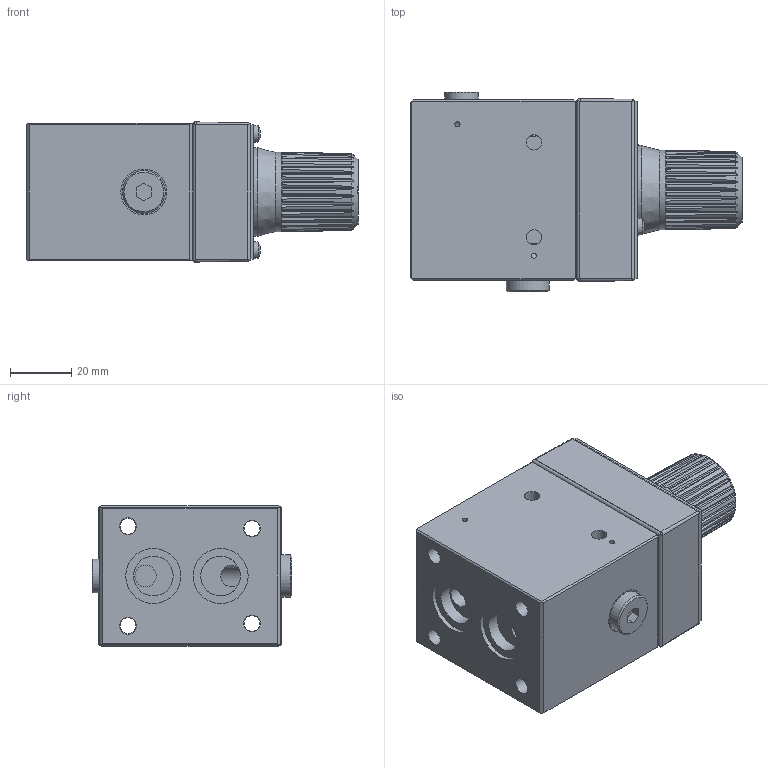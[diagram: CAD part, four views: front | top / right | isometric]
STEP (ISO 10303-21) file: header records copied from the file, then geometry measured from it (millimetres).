
FILE_DESCRIPTION(/* description */ ('STEP AP214'),/* implementation_level */ '2;1');
FILE_NAME(/* name */ 'RPC1-0_5_T_43',/* time_stamp */ '2024-12-22T08:22:13+01:00',/* author */ ('License CC BY-ND 4.0'),/* organization */ ('CADENAS'),/* preprocessor_version */ 'ST-DEVELOPER v19.3',/* originating_system */ 'PARTsolutions',/* authorisation */ ' ');
FILE_SCHEMA (('AUTOMOTIVE_DESIGN {1 0 10303 214 3 1 1}'));
Length unit declared in the file: millimetre
Products named in the file (11): RPC1-0,5/T/43; 0128619-00; 0113360-03; 3001210100-04; 0530779; 0210401-02; 0530160; 0551628; 0532227; 0144337-06; 0570180_
Assembly tree (14 placements, depth 2):
  RPC1-0,5/T/43
    0128619-00
    0113360-03
    3001210100-04
    0530779  x2
    0210401-02
    0530160  x4
    0551628
    0532227
    0144337-06
    0570180_
Bounding box: 108.5 x 65.3 x 45.8 mm (x, y, z)
Volume: 191496.3 mm3; surface area: 51077.1 mm2
Topology: 14 solids, 14 shells, 820 faces, 2114 edges, 1375 vertices
Faces by surface type: plane 541, cylinder 158, cone 101, torus 18, sphere 2
Full cylindrical faces by diameter (mm): 1.7 x2, 2.6 x2, 3 x2, 3.242 x2, 3.5 x2, 4 x6, 4.3 x1, 5 x7, 5.5 x4, 6.4 x1, 6.647 x1, 7 x3, 8 x1, 8.5 x4, 8.566 x2, 9.5 x4, 9.728 x1, 11 x1, 12 x2, 13 x2, 14 x1, 15 x1, 18 x4, 26.008 x1, 29 x1, 29.5 x1, 31 x1, 36 x1
Entity records: 24069 total; most frequent: CARTESIAN_POINT 4509, ORIENTED_EDGE 3570, DIRECTION 3471, EDGE_CURVE 1785, VERTEX_POINT 1238, LINE 1175, VECTOR 1175, AXIS2_PLACEMENT_3D 1148
